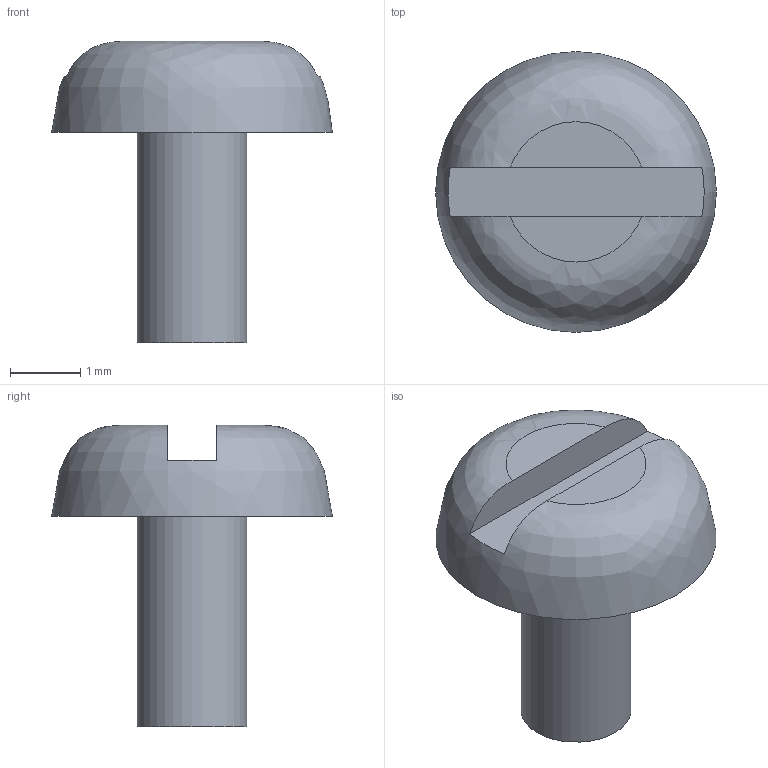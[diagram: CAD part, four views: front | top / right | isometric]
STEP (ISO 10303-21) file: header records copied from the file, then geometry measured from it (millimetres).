
FILE_DESCRIPTION(/* description */ (''),/* implementation_level */ '2;1');
FILE_NAME(/* name */ 'C27_R2_HW_LTE_14_-32.step',/* time_stamp */ '2026-09-10T13:08:45-07:00',/* author */ (''),/* organization */ (''),/* preprocessor_version */ 'ST-DEVELOPER v20.1',/* originating_system */ 'Autodesk Translation Framework v15.8.0.0',/* authorisation */ '');
FILE_SCHEMA (('AUTOMOTIVE_DESIGN { 1 0 10303 214 3 1 1 }'));
Length unit declared in the file: millimetre
Products named in the file (1): 2026-09-10-13-08-45-874
Bounding box: 4 x 4 x 4.3 mm (x, y, z)
Volume: 18.2 mm3; surface area: 52.8 mm2
Topology: 1 solids, 1 shells, 9 faces, 18 edges, 12 vertices
Faces by surface type: plane 7, bspline 1, cylinder 1
Full cylindrical faces by diameter (mm): 1.567 x1
Entity records: 421 total; most frequent: CARTESIAN_POINT 202, DIRECTION 39, ORIENTED_EDGE 36, EDGE_CURVE 18, AXIS2_PLACEMENT_3D 17, VERTEX_POINT 12, EDGE_LOOP 10, FACE_OUTER_BOUND 9
